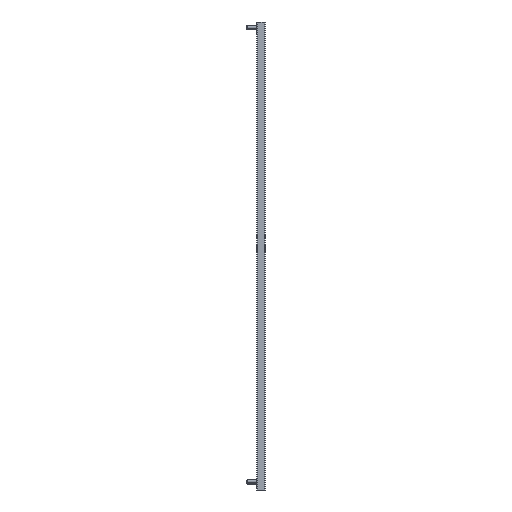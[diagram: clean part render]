
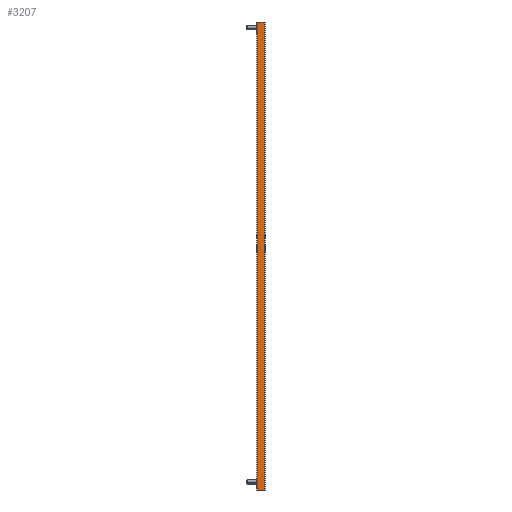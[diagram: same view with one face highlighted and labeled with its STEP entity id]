
A CAD part, left-side view. The second image highlights one B-rep face of the part: STEP entity #3207.
In plain terms, the highlighted planar face has unit normal (-1, 0, 0).
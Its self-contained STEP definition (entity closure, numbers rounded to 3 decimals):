
#20 = VERTEX_POINT ( 'NONE', #3257 ) ;
#35 = DIRECTION ( 'NONE',  ( 0., -1., 0. ) ) ;
#74 = VERTEX_POINT ( 'NONE', #424 ) ;
#222 = VECTOR ( 'NONE', #2663, 1000. ) ;
#230 = CARTESIAN_POINT ( 'NONE',  ( -8., 0., 679. ) ) ;
#271 = CARTESIAN_POINT ( 'NONE',  ( -8., 9.3, 679. ) ) ;
#374 = LINE ( 'NONE', #1766, #1550 ) ;
#424 = CARTESIAN_POINT ( 'NONE',  ( -8., 12.5, 0. ) ) ;
#447 = VECTOR ( 'NONE', #4052, 1000. ) ;
#486 = EDGE_CURVE ( 'NONE', #74, #4234, #2672, .T. ) ;
#537 = VECTOR ( 'NONE', #919, 1000. ) ;
#576 = ORIENTED_EDGE ( 'NONE', *, *, #3147, .T. ) ;
#592 = VERTEX_POINT ( 'NONE', #271 ) ;
#685 = EDGE_LOOP ( 'NONE', ( #1022, #3025, #1693, #1454, #1427, #3298, #576, #1679 ) ) ;
#919 = DIRECTION ( 'NONE',  ( 0., 1., 0. ) ) ;
#955 = CARTESIAN_POINT ( 'NONE',  ( -8., 12.5, 679. ) ) ;
#972 = DIRECTION ( 'NONE',  ( 0., 0., 1. ) ) ;
#1003 = VERTEX_POINT ( 'NONE', #1337 ) ;
#1022 = ORIENTED_EDGE ( 'NONE', *, *, #486, .F. ) ;
#1265 = CARTESIAN_POINT ( 'NONE',  ( -8., 0., 679. ) ) ;
#1303 = CARTESIAN_POINT ( 'NONE',  ( -8., 0., 679. ) ) ;
#1337 = CARTESIAN_POINT ( 'NONE',  ( -8., 0., 0. ) ) ;
#1427 = ORIENTED_EDGE ( 'NONE', *, *, #3446, .T. ) ;
#1443 = EDGE_CURVE ( 'NONE', #4415, #1003, #2766, .T. ) ;
#1454 = ORIENTED_EDGE ( 'NONE', *, *, #1443, .T. ) ;
#1469 = VECTOR ( 'NONE', #2108, 1000. ) ;
#1487 = AXIS2_PLACEMENT_3D ( 'NONE', #2504, #3452, #2090 ) ;
#1550 = VECTOR ( 'NONE', #35, 1000. ) ;
#1559 = VECTOR ( 'NONE', #3904, 1000. ) ;
#1610 = DIRECTION ( 'NONE',  ( 0., 1., 0. ) ) ;
#1626 = LINE ( 'NONE', #1265, #537 ) ;
#1679 = ORIENTED_EDGE ( 'NONE', *, *, #4390, .F. ) ;
#1692 = EDGE_CURVE ( 'NONE', #4208, #20, #1626, .T. ) ;
#1693 = ORIENTED_EDGE ( 'NONE', *, *, #4270, .T. ) ;
#1713 = CARTESIAN_POINT ( 'NONE',  ( -8., 0., 0. ) ) ;
#1766 = CARTESIAN_POINT ( 'NONE',  ( -8., 12.5, 679. ) ) ;
#1830 = CARTESIAN_POINT ( 'NONE',  ( -8., 0., 0. ) ) ;
#1862 = VERTEX_POINT ( 'NONE', #3125 ) ;
#2017 = LINE ( 'NONE', #3405, #2797 ) ;
#2090 = DIRECTION ( 'NONE',  ( 0., 0., 1. ) ) ;
#2108 = DIRECTION ( 'NONE',  ( 0., -1., 0. ) ) ;
#2204 = CARTESIAN_POINT ( 'NONE',  ( -8., 3.2, 0. ) ) ;
#2334 = VECTOR ( 'NONE', #972, 1000. ) ;
#2404 = CARTESIAN_POINT ( 'NONE',  ( -8., 12.5, 679. ) ) ;
#2504 = CARTESIAN_POINT ( 'NONE',  ( -8., 0., 679. ) ) ;
#2510 = EDGE_CURVE ( 'NONE', #74, #1862, #2518, .T. ) ;
#2518 = LINE ( 'NONE', #1830, #1559 ) ;
#2663 = DIRECTION ( 'NONE',  ( 0., -1., 0. ) ) ;
#2672 = LINE ( 'NONE', #955, #447 ) ;
#2766 = LINE ( 'NONE', #2835, #1469 ) ;
#2770 = FACE_OUTER_BOUND ( 'NONE', #685, .T. ) ;
#2797 = VECTOR ( 'NONE', #1610, 1000. ) ;
#2835 = CARTESIAN_POINT ( 'NONE',  ( -8., 0., 0. ) ) ;
#2840 = PLANE ( 'NONE',  #1487 ) ;
#3025 = ORIENTED_EDGE ( 'NONE', *, *, #2510, .T. ) ;
#3061 = LINE ( 'NONE', #1713, #222 ) ;
#3125 = CARTESIAN_POINT ( 'NONE',  ( -8., 9.3, 0. ) ) ;
#3147 = EDGE_CURVE ( 'NONE', #20, #592, #2017, .T. ) ;
#3207 = ADVANCED_FACE ( 'NONE', ( #2770 ), #2840, .T. ) ;
#3257 = CARTESIAN_POINT ( 'NONE',  ( -8., 3.2, 679. ) ) ;
#3298 = ORIENTED_EDGE ( 'NONE', *, *, #1692, .T. ) ;
#3405 = CARTESIAN_POINT ( 'NONE',  ( -8., 0., 679. ) ) ;
#3446 = EDGE_CURVE ( 'NONE', #1003, #4208, #4466, .T. ) ;
#3452 = DIRECTION ( 'NONE',  ( -1., 0., 0. ) ) ;
#3904 = DIRECTION ( 'NONE',  ( 0., -1., 0. ) ) ;
#4052 = DIRECTION ( 'NONE',  ( 0., 0., 1. ) ) ;
#4208 = VERTEX_POINT ( 'NONE', #1303 ) ;
#4234 = VERTEX_POINT ( 'NONE', #2404 ) ;
#4270 = EDGE_CURVE ( 'NONE', #1862, #4415, #3061, .T. ) ;
#4390 = EDGE_CURVE ( 'NONE', #4234, #592, #374, .T. ) ;
#4415 = VERTEX_POINT ( 'NONE', #2204 ) ;
#4466 = LINE ( 'NONE', #230, #2334 ) ;
